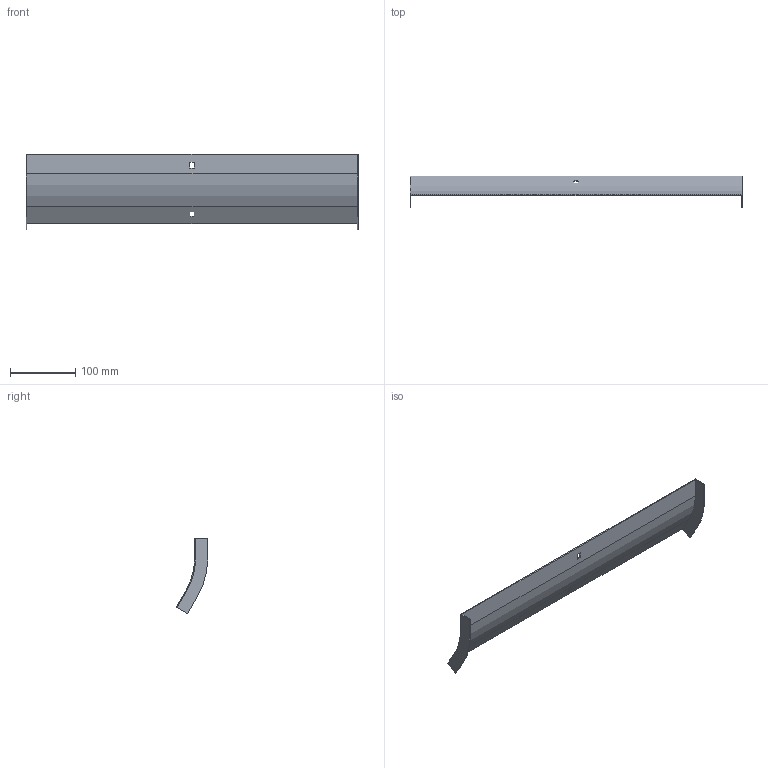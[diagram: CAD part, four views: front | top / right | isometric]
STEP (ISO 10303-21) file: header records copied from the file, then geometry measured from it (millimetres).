
FILE_DESCRIPTION (( 'STEP AP214' ), '1' );
FILE_NAME ('32G1P500.step', '2025-02-21T12:47:13', ( '' ), ( '' ), 'SwSTEP 2.0', 'SolidWorks 2023', '' );
FILE_SCHEMA (( 'AUTOMOTIVE_DESIGN' ));
Length unit declared in the file: millimetre
Products named in the file (1): 32G1P500
Bounding box: 507 x 48.2 x 115.23 mm (x, y, z)
Volume: 91480.3 mm3; surface area: 124063.7 mm2
Topology: 1 solids, 1 shells, 26 faces, 72 edges, 48 vertices
Faces by surface type: plane 22, cylinder 4
Entity records: 855 total; most frequent: CARTESIAN_POINT 147, ORIENTED_EDGE 144, DIRECTION 134, EDGE_CURVE 72, LINE 64, VECTOR 64, VERTEX_POINT 48, AXIS2_PLACEMENT_3D 35
